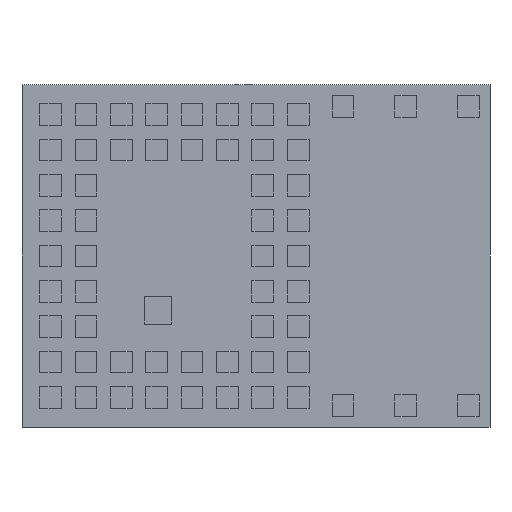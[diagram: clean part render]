
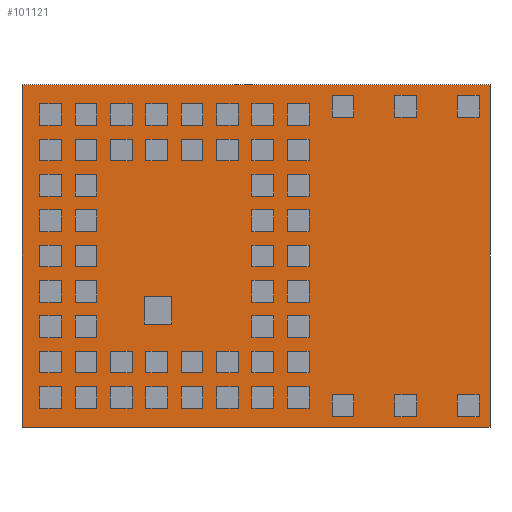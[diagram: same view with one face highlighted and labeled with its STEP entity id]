
A CAD part, front view. The second image highlights one B-rep face of the part: STEP entity #101121.
In plain terms, the highlighted planar face has unit normal (0, -1, 0).
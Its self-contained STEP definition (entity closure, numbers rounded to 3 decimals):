
#1620 = LINE ( 'NONE', #92664, #4344 ) ;
#1960 = EDGE_CURVE ( 'NONE', #64245, #20689, #59426, .T. ) ;
#4344 = VECTOR ( 'NONE', #56416, 1000. ) ;
#4810 = CARTESIAN_POINT ( 'NONE',  ( -4.3, 0.2, 3.15 ) ) ;
#10237 = EDGE_CURVE ( 'NONE', #64245, #65261, #30124, .T. ) ;
#14769 = EDGE_LOOP ( 'NONE', ( #16020, #72650, #33445, #107418 ) ) ;
#16020 = ORIENTED_EDGE ( 'NONE', *, *, #79523, .F. ) ;
#17248 = CARTESIAN_POINT ( 'NONE',  ( 4.3, 0.2, -3.15 ) ) ;
#18193 = VECTOR ( 'NONE', #68209, 1000. ) ;
#19881 = VECTOR ( 'NONE', #101659, 1000. ) ;
#20636 = AXIS2_PLACEMENT_3D ( 'NONE', #17248, #27820, #98800 ) ;
#20689 = VERTEX_POINT ( 'NONE', #24708 ) ;
#21867 = VECTOR ( 'NONE', #25188, 1000. ) ;
#24708 = CARTESIAN_POINT ( 'NONE',  ( -4.3, 0.2, -3.15 ) ) ;
#25188 = DIRECTION ( 'NONE',  ( 0., 0., 1. ) ) ;
#27820 = DIRECTION ( 'NONE',  ( 0., 1., 0. ) ) ;
#29363 = EDGE_CURVE ( 'NONE', #65261, #99221, #34024, .T. ) ;
#30124 = LINE ( 'NONE', #78055, #21867 ) ;
#33445 = ORIENTED_EDGE ( 'NONE', *, *, #10237, .T. ) ;
#34024 = LINE ( 'NONE', #61013, #19881 ) ;
#43748 = PLANE ( 'NONE',  #20636 ) ;
#54360 = CARTESIAN_POINT ( 'NONE',  ( 4.3, 0.2, 3.15 ) ) ;
#56416 = DIRECTION ( 'NONE',  ( 0., 0., 1. ) ) ;
#59426 = LINE ( 'NONE', #95125, #18193 ) ;
#61013 = CARTESIAN_POINT ( 'NONE',  ( 4.3, 0.2, 3.15 ) ) ;
#64245 = VERTEX_POINT ( 'NONE', #88466 ) ;
#65261 = VERTEX_POINT ( 'NONE', #54360 ) ;
#68209 = DIRECTION ( 'NONE',  ( -1., 0., 0. ) ) ;
#72650 = ORIENTED_EDGE ( 'NONE', *, *, #1960, .F. ) ;
#78055 = CARTESIAN_POINT ( 'NONE',  ( 4.3, 0.2, -3.15 ) ) ;
#79523 = EDGE_CURVE ( 'NONE', #20689, #99221, #1620, .T. ) ;
#88262 = FACE_OUTER_BOUND ( 'NONE', #14769, .T. ) ;
#88466 = CARTESIAN_POINT ( 'NONE',  ( 4.3, 0.2, -3.15 ) ) ;
#92664 = CARTESIAN_POINT ( 'NONE',  ( -4.3, 0.2, -3.15 ) ) ;
#95125 = CARTESIAN_POINT ( 'NONE',  ( 4.3, 0.2, -3.15 ) ) ;
#98800 = DIRECTION ( 'NONE',  ( -1., 0., 0. ) ) ;
#99221 = VERTEX_POINT ( 'NONE', #4810 ) ;
#101121 = ADVANCED_FACE ( 'NONE', ( #88262 ), #43748, .F. ) ;
#101659 = DIRECTION ( 'NONE',  ( -1., 0., 0. ) ) ;
#107418 = ORIENTED_EDGE ( 'NONE', *, *, #29363, .T. ) ;
